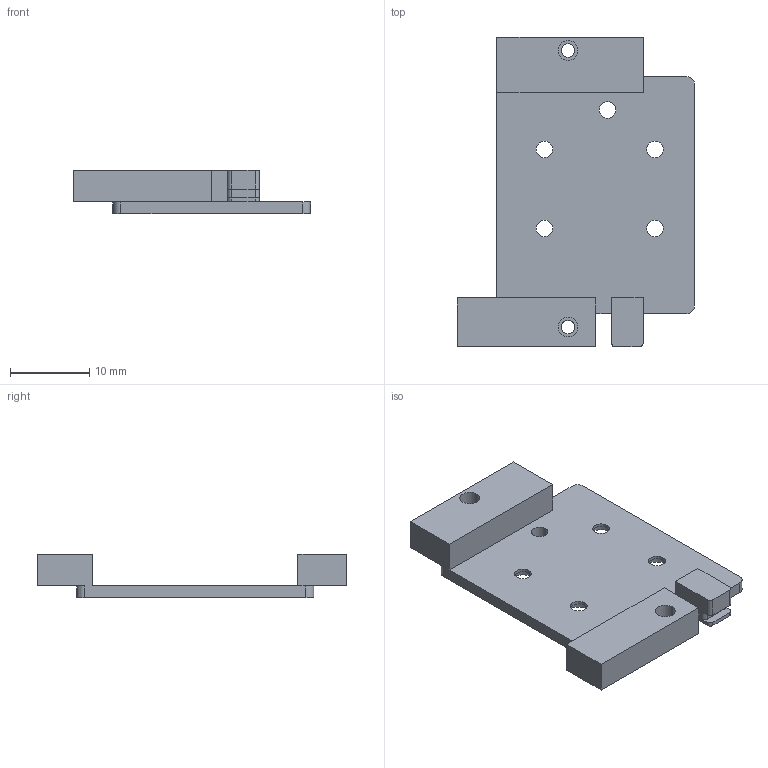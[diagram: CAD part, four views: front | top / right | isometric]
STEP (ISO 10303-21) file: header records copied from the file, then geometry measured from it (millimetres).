
FILE_DESCRIPTION((''),'2;1');
FILE_NAME('NICHROME_WIRE_BOARD','2020-03-13T',('g0715'),(''),'PRO/ENGINEER BY PARAMETRIC TECHNOLOGY CORPORATION, 2014090','PRO/ENGINEER BY PARAMETRIC TECHNOLOGY CORPORATION, 2014090','');
FILE_SCHEMA(('CONFIG_CONTROL_DESIGN'));
Length unit declared in the file: millimetre
Products named in the file (1): NICHROME_WIRE_BOARD
Bounding box: 30 x 39.2 x 5.5 mm (x, y, z)
Volume: 2080.7 mm3; surface area: 2608.3 mm2
Topology: 1 solids, 1 shells, 69 faces, 178 edges, 117 vertices
Faces by surface type: cylinder 36, plane 33
Entity records: 2190 total; most frequent: DIRECTION 388, CARTESIAN_POINT 364, ORIENTED_EDGE 356, EDGE_CURVE 178, AXIS2_PLACEMENT_3D 141, VERTEX_POINT 117, VECTOR 106, LINE 106
